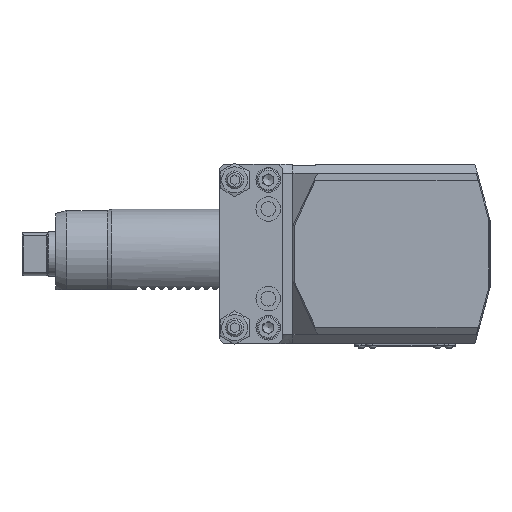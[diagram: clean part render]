
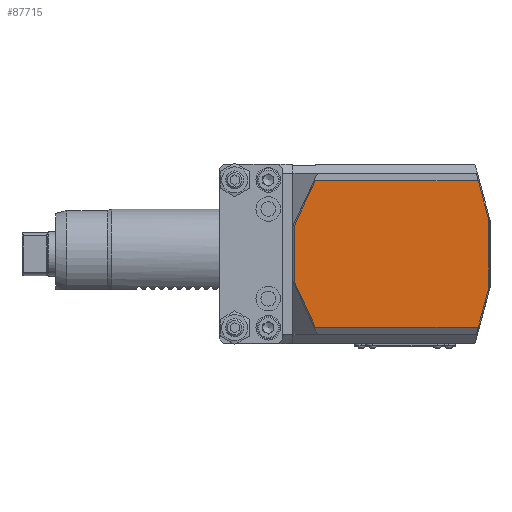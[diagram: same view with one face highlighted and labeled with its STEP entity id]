
A CAD part, top view. The second image highlights one B-rep face of the part: STEP entity #87715.
In plain terms, the highlighted planar face has unit normal (0, 0, 1) as drawn and (-1, 0, 0) by its records, which use the part's own axes.
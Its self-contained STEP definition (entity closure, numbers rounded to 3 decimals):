
#36269=VECTOR('',#62233,1.);
#36280=VECTOR('',#62248,1.);
#36285=VECTOR('',#62255,1.);
#36286=VECTOR('',#62256,1.);
#36287=VECTOR('',#62257,1.);
#36288=VECTOR('',#62258,1.);
#36289=VECTOR('',#62259,1.);
#36290=VECTOR('',#62260,1.);
#37819=LINE('',#80017,#36269);
#37830=LINE('',#80040,#36280);
#37835=LINE('',#80049,#36285);
#37836=LINE('',#80051,#36286);
#37837=LINE('',#80052,#36287);
#37838=LINE('',#80054,#36288);
#37839=LINE('',#80056,#36289);
#37840=LINE('',#80057,#36290);
#39537=PLANE('',#85802);
#44878=ORIENTED_EDGE('',*,*,#52547,.F.);
#44879=ORIENTED_EDGE('',*,*,#52563,.F.);
#44880=ORIENTED_EDGE('',*,*,#52564,.F.);
#44881=ORIENTED_EDGE('',*,*,#52565,.F.);
#44882=ORIENTED_EDGE('',*,*,#52558,.F.);
#44883=ORIENTED_EDGE('',*,*,#52566,.F.);
#44884=ORIENTED_EDGE('',*,*,#52567,.F.);
#44885=ORIENTED_EDGE('',*,*,#52568,.F.);
#49468=VERTEX_POINT('',#80014);
#49469=VERTEX_POINT('',#80016);
#49478=VERTEX_POINT('',#80038);
#49479=VERTEX_POINT('',#80039);
#49482=VERTEX_POINT('',#80048);
#49483=VERTEX_POINT('',#80050);
#49484=VERTEX_POINT('',#80053);
#49485=VERTEX_POINT('',#80055);
#52547=EDGE_CURVE('',#49468,#49469,#37819,.T.);
#52558=EDGE_CURVE('',#49478,#49479,#37830,.T.);
#52563=EDGE_CURVE('',#49482,#49468,#37835,.T.);
#52564=EDGE_CURVE('',#49483,#49482,#37836,.T.);
#52565=EDGE_CURVE('',#49479,#49483,#37837,.T.);
#52566=EDGE_CURVE('',#49484,#49478,#37838,.T.);
#52567=EDGE_CURVE('',#49485,#49484,#37839,.T.);
#52568=EDGE_CURVE('',#49469,#49485,#37840,.T.);
#54766=EDGE_LOOP('',(#44878,#44879,#44880,#44881,#44882,#44883,#44884,#44885));
#56475=FACE_BOUND('',#54766,.T.);
#62233=DIRECTION('',(0.,-72.709,0.));
#62248=DIRECTION('',(0.,72.709,0.));
#62253=DIRECTION('',(-1.,0.,0.));
#62254=DIRECTION('',(0.,1.,0.));
#62255=DIRECTION('',(0.,-9.524,20.425));
#62256=DIRECTION('',(0.,0.,24.599));
#62257=DIRECTION('',(0.,9.524,20.425));
#62258=DIRECTION('',(0.,4.767,-17.79));
#62259=DIRECTION('',(0.,0.,-29.868));
#62260=DIRECTION('',(0.,-4.767,-17.79));
#80014=CARTESIAN_POINT('',(46.381,126.198,32.724));
#80016=CARTESIAN_POINT('',(46.381,53.489,32.724));
#80017=CARTESIAN_POINT('',(46.381,126.198,32.724));
#80038=CARTESIAN_POINT('',(46.381,53.489,-32.724));
#80039=CARTESIAN_POINT('',(46.381,126.198,-32.724));
#80040=CARTESIAN_POINT('',(46.381,53.489,-32.724));
#80047=CARTESIAN_POINT('',(46.381,48.222,0.));
#80048=CARTESIAN_POINT('',(46.381,135.722,12.3));
#80049=CARTESIAN_POINT('',(46.381,135.722,12.3));
#80050=CARTESIAN_POINT('',(46.381,135.722,-12.3));
#80051=CARTESIAN_POINT('',(46.381,135.722,-12.3));
#80052=CARTESIAN_POINT('',(46.381,126.198,-32.724));
#80053=CARTESIAN_POINT('',(46.381,48.722,-14.934));
#80054=CARTESIAN_POINT('',(46.381,48.722,-14.934));
#80055=CARTESIAN_POINT('',(46.381,48.722,14.934));
#80056=CARTESIAN_POINT('',(46.381,48.722,14.934));
#80057=CARTESIAN_POINT('',(46.381,53.489,32.724));
#85802=AXIS2_PLACEMENT_3D('',#80047,#62253,#62254);
#87715=ADVANCED_FACE('',(#56475),#39537,.T.);
